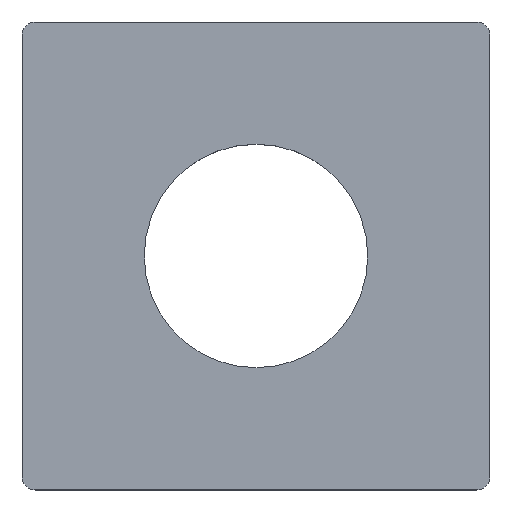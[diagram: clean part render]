
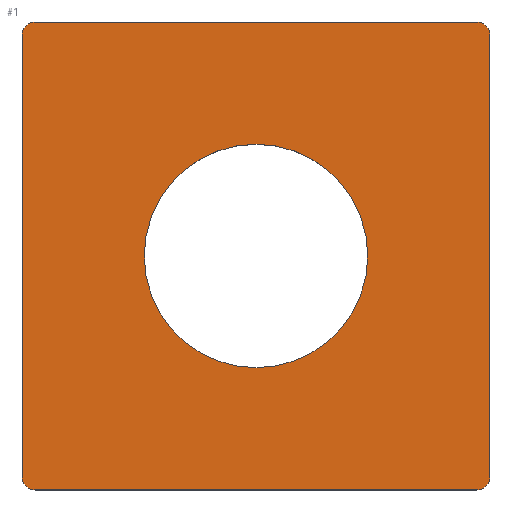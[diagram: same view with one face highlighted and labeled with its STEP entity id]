
A CAD part, top view. The second image highlights one B-rep face of the part: STEP entity #1.
In plain terms, the highlighted planar face has unit normal (0, 0, 1).
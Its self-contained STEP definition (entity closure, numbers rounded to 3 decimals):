
#1 = ADVANCED_FACE ( 'NONE', ( #3, #8 ), #374, .T. ) ;
#2 = CIRCLE ( 'NONE', #43, 0.5 ) ;
#3 = FACE_OUTER_BOUND ( 'NONE', #165, .T. ) ;
#7 = ORIENTED_EDGE ( 'NONE', *, *, #213, .F. ) ;
#8 = FACE_BOUND ( 'NONE', #319, .T. ) ;
#16 = AXIS2_PLACEMENT_3D ( 'NONE', #68, #126, #211 ) ;
#20 = CARTESIAN_POINT ( 'NONE',  ( 0.5, 0.5, 2. ) ) ;
#41 = VERTEX_POINT ( 'NONE', #151 ) ;
#42 = EDGE_CURVE ( 'NONE', #89, #250, #397, .T. ) ;
#43 = AXIS2_PLACEMENT_3D ( 'NONE', #208, #79, #210 ) ;
#49 = DIRECTION ( 'NONE',  ( 0., 0., 1. ) ) ;
#50 = DIRECTION ( 'NONE',  ( 1., 0., 0. ) ) ;
#63 = VECTOR ( 'NONE', #323, 1000. ) ;
#68 = CARTESIAN_POINT ( 'NONE',  ( 17.3, 17.3, 2. ) ) ;
#72 = VERTEX_POINT ( 'NONE', #177 ) ;
#79 = DIRECTION ( 'NONE',  ( 0., 0., 1. ) ) ;
#85 = DIRECTION ( 'NONE',  ( 0., 0., 1. ) ) ;
#89 = VERTEX_POINT ( 'NONE', #263 ) ;
#91 = CIRCLE ( 'NONE', #383, 0.5 ) ;
#92 = VECTOR ( 'NONE', #384, 1000. ) ;
#95 = EDGE_CURVE ( 'NONE', #198, #112, #2, .T. ) ;
#100 = VERTEX_POINT ( 'NONE', #271 ) ;
#102 = CARTESIAN_POINT ( 'NONE',  ( 0.5, 0.5, 2. ) ) ;
#106 = CIRCLE ( 'NONE', #16, 0.5 ) ;
#107 = ORIENTED_EDGE ( 'NONE', *, *, #401, .T. ) ;
#109 = DIRECTION ( 'NONE',  ( -1., 0., 0. ) ) ;
#110 = ORIENTED_EDGE ( 'NONE', *, *, #370, .T. ) ;
#112 = VERTEX_POINT ( 'NONE', #326 ) ;
#125 = ORIENTED_EDGE ( 'NONE', *, *, #150, .T. ) ;
#126 = DIRECTION ( 'NONE',  ( 0., 0., 1. ) ) ;
#132 = DIRECTION ( 'NONE',  ( 0., 0., 1. ) ) ;
#135 = CARTESIAN_POINT ( 'NONE',  ( 17.8, 0.5, 2. ) ) ;
#140 = ORIENTED_EDGE ( 'NONE', *, *, #318, .T. ) ;
#150 = EDGE_CURVE ( 'NONE', #41, #282, #106, .T. ) ;
#151 = CARTESIAN_POINT ( 'NONE',  ( 17.8, 17.3, 2. ) ) ;
#153 = DIRECTION ( 'NONE',  ( 0., 0., 1. ) ) ;
#157 = VERTEX_POINT ( 'NONE', #255 ) ;
#165 = EDGE_LOOP ( 'NONE', ( #316, #225, #140, #259, #125, #107, #349, #110 ) ) ;
#168 = CARTESIAN_POINT ( 'NONE',  ( 0., 0.5, 2. ) ) ;
#177 = CARTESIAN_POINT ( 'NONE',  ( 17.3, 0., 2. ) ) ;
#184 = DIRECTION ( 'NONE',  ( 0., 0., 1. ) ) ;
#193 = CIRCLE ( 'NONE', #322, 4.25 ) ;
#198 = VERTEX_POINT ( 'NONE', #253 ) ;
#208 = CARTESIAN_POINT ( 'NONE',  ( 0.5, 17.3, 2. ) ) ;
#210 = DIRECTION ( 'NONE',  ( 1., 0., 0. ) ) ;
#211 = DIRECTION ( 'NONE',  ( 1., 0., 0. ) ) ;
#213 = EDGE_CURVE ( 'NONE', #100, #157, #353, .T. ) ;
#216 = VERTEX_POINT ( 'NONE', #135 ) ;
#225 = ORIENTED_EDGE ( 'NONE', *, *, #306, .T. ) ;
#227 = LINE ( 'NONE', #269, #63 ) ;
#231 = DIRECTION ( 'NONE',  ( 0., 1., 0. ) ) ;
#233 = LINE ( 'NONE', #168, #92 ) ;
#236 = CARTESIAN_POINT ( 'NONE',  ( 17.3, 0.5, 2. ) ) ;
#249 = ORIENTED_EDGE ( 'NONE', *, *, #257, .F. ) ;
#250 = VERTEX_POINT ( 'NONE', #311 ) ;
#253 = CARTESIAN_POINT ( 'NONE',  ( 0.5, 17.8, 2. ) ) ;
#255 = CARTESIAN_POINT ( 'NONE',  ( 4.65, 8.9, 2. ) ) ;
#257 = EDGE_CURVE ( 'NONE', #157, #100, #193, .T. ) ;
#259 = ORIENTED_EDGE ( 'NONE', *, *, #310, .T. ) ;
#263 = CARTESIAN_POINT ( 'NONE',  ( 0., 0.5, 2. ) ) ;
#269 = CARTESIAN_POINT ( 'NONE',  ( 0.5, 0., 2. ) ) ;
#271 = CARTESIAN_POINT ( 'NONE',  ( 13.15, 8.9, 2. ) ) ;
#274 = VECTOR ( 'NONE', #109, 1000. ) ;
#275 = CARTESIAN_POINT ( 'NONE',  ( 8.9, 8.9, 2. ) ) ;
#282 = VERTEX_POINT ( 'NONE', #315 ) ;
#290 = CARTESIAN_POINT ( 'NONE',  ( 0.5, 17.8, 2. ) ) ;
#294 = LINE ( 'NONE', #290, #274 ) ;
#299 = AXIS2_PLACEMENT_3D ( 'NONE', #20, #85, #50 ) ;
#306 = EDGE_CURVE ( 'NONE', #250, #72, #227, .T. ) ;
#307 = DIRECTION ( 'NONE',  ( 1., 0., 0. ) ) ;
#310 = EDGE_CURVE ( 'NONE', #216, #41, #327, .T. ) ;
#311 = CARTESIAN_POINT ( 'NONE',  ( 0.5, 0., 2. ) ) ;
#315 = CARTESIAN_POINT ( 'NONE',  ( 17.3, 17.8, 2. ) ) ;
#316 = ORIENTED_EDGE ( 'NONE', *, *, #42, .T. ) ;
#318 = EDGE_CURVE ( 'NONE', #72, #216, #91, .T. ) ;
#319 = EDGE_LOOP ( 'NONE', ( #249, #7 ) ) ;
#321 = DIRECTION ( 'NONE',  ( 1., 0., 0. ) ) ;
#322 = AXIS2_PLACEMENT_3D ( 'NONE', #275, #184, #307 ) ;
#323 = DIRECTION ( 'NONE',  ( 1., 0., 0. ) ) ;
#325 = DIRECTION ( 'NONE',  ( 1., 0., 0. ) ) ;
#326 = CARTESIAN_POINT ( 'NONE',  ( 0., 17.3, 2. ) ) ;
#327 = LINE ( 'NONE', #378, #339 ) ;
#339 = VECTOR ( 'NONE', #231, 1000. ) ;
#345 = DIRECTION ( 'NONE',  ( 1., 0., 0. ) ) ;
#347 = AXIS2_PLACEMENT_3D ( 'NONE', #102, #132, #321 ) ;
#349 = ORIENTED_EDGE ( 'NONE', *, *, #95, .T. ) ;
#353 = CIRCLE ( 'NONE', #365, 4.25 ) ;
#365 = AXIS2_PLACEMENT_3D ( 'NONE', #395, #153, #345 ) ;
#370 = EDGE_CURVE ( 'NONE', #112, #89, #233, .T. ) ;
#374 = PLANE ( 'NONE',  #347 ) ;
#378 = CARTESIAN_POINT ( 'NONE',  ( 17.8, 0.5, 2. ) ) ;
#383 = AXIS2_PLACEMENT_3D ( 'NONE', #236, #49, #325 ) ;
#384 = DIRECTION ( 'NONE',  ( 0., -1., 0. ) ) ;
#395 = CARTESIAN_POINT ( 'NONE',  ( 8.9, 8.9, 2. ) ) ;
#397 = CIRCLE ( 'NONE', #299, 0.5 ) ;
#401 = EDGE_CURVE ( 'NONE', #282, #198, #294, .T. ) ;
